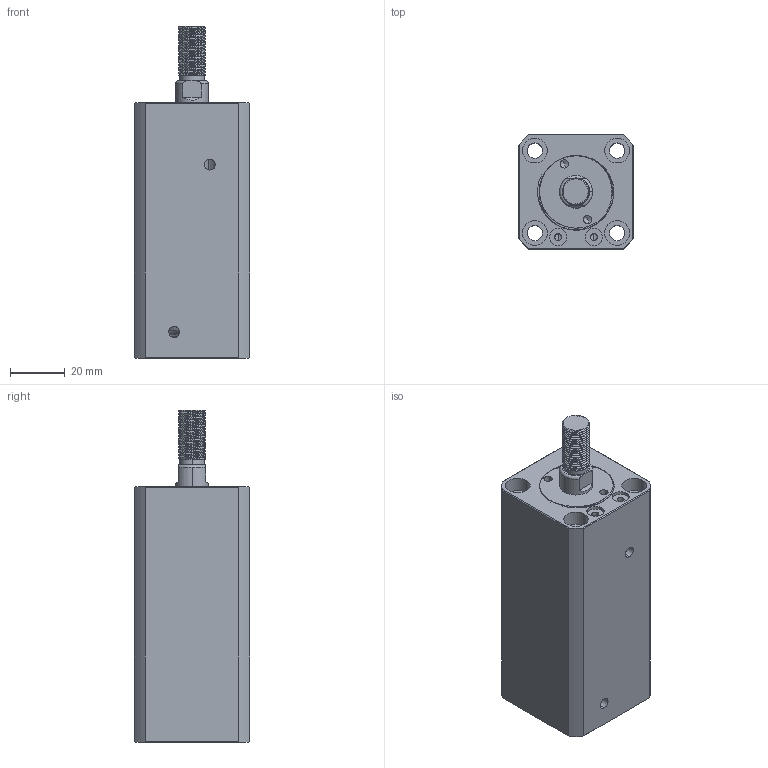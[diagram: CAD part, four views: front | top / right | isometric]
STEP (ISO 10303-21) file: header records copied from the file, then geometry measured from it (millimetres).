
FILE_DESCRIPTION (( 'STEP AP214' ), '1' );
FILE_NAME ('chtb-sdma20x50w_asm.STEP', '2018-05-18T04:27:07', ( 'Windows' ), ( 'Microsoft' ), 'SwSTEP 2.0', 'SolidWorks 2015', '' );
FILE_SCHEMA (( 'AUTOMOTIVE_DESIGN' ));
Length unit declared in the file: millimetre
Products named in the file (4): CHTB-SDMA20X50WHSG; CHTB-SDMA20X50NBT; chtb-sdma20x50w_asm; QG_3
Assembly tree (3 placements, depth 2):
  chtb-sdma20x50w_asm
    CHTB-SDMA20X50NBT
    CHTB-SDMA20X50WHSG
    QG_3
Bounding box: 42 x 42 x 121 mm (x, y, z)
Volume: 140452.2 mm3; surface area: 42033.4 mm2
Topology: 3 solids, 3 shells, 247 faces, 671 edges, 446 vertices
Faces by surface type: cylinder 144, plane 48, torus 25, bspline 23, cone 7
Entity records: 14895 total; most frequent: CARTESIAN_POINT 9018, ORIENTED_EDGE 1334, DIRECTION 1075, EDGE_CURVE 667, VERTEX_POINT 446, AXIS2_PLACEMENT_3D 441, EDGE_LOOP 285, FACE_OUTER_BOUND 247
